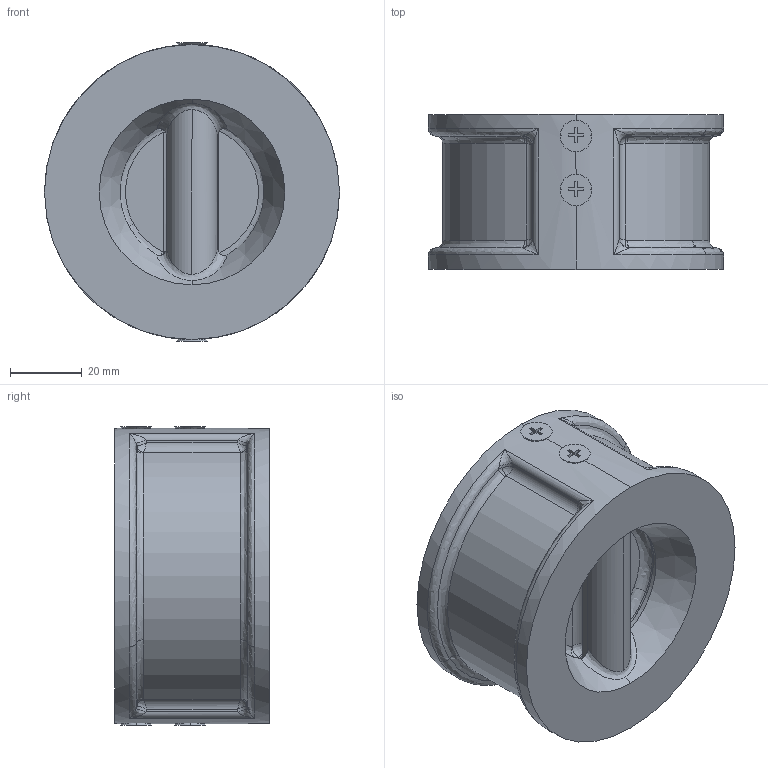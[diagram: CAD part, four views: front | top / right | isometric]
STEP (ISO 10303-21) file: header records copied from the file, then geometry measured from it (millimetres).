
FILE_DESCRIPTION (( 'STEP AP203' ), '1' );
FILE_NAME ('00.STEP', '2017-04-02T08:32:20', ( 'User' ), ( 'shendu' ), 'SwSTEP 2.0', 'SolidWorks 2015', '' );
FILE_SCHEMA (( 'CONFIG_CONTROL_DESIGN' ));
Length unit declared in the file: millimetre
Products named in the file (1): 00
Bounding box: 82 x 43 x 82.95 mm (x, y, z)
Volume: 109424.1 mm3; surface area: 42610.1 mm2
Topology: 15 solids, 15 shells, 428 faces, 1036 edges, 601 vertices
Faces by surface type: bspline 162, cylinder 138, plane 116, cone 12
Entity records: 41204 total; most frequent: CARTESIAN_POINT 32457, ORIENTED_EDGE 1994, DIRECTION 1474, EDGE_CURVE 997, VERTEX_POINT 600, AXIS2_PLACEMENT_3D 544, EDGE_LOOP 459, ADVANCED_FACE 427
